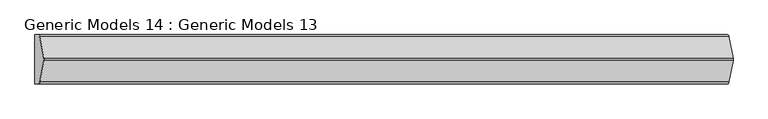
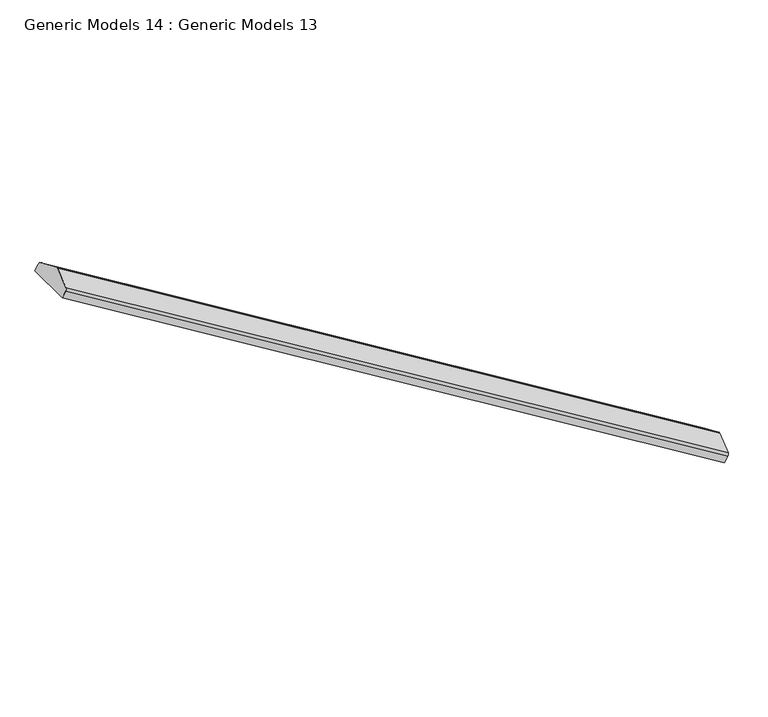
"""IFC4 building model written with IfcOpenShell, lengths in millimetres: proxy geometry, Generic Models 14 : Generic Models 13."""

from ifc_helpers import new_model, si_unit, point, frame, frame_2d, origin, place, context, project, spatial, polyline, circle_curve, trimmed, segment, composite_curve, outline, extrude, source, transform, mapped, element, save


def generic_models_14_generic_models_13_79633aa3(model_context):
    return source(origin(), model_context, "Body", "SweptSolid", [
        extrude(outline(composite_curve([segment(polyline([(-120.0, 0.0), (20.0, 0.0), (20.0, -19.2213026)]), True, "CONTINUOUS"), segment(trimmed(circle_curve(frame_2d((11.8, -19.2213026)), 8.2), [point((20.0, -19.2213026))], [point((14.5579584, -26.9435863))], False, "CARTESIAN"), True, "CONTINUOUS"), segment(polyline([(14.5579584, -26.9435863), (-47.2292405, -49.010443)]), True, "CONTINUOUS"), segment(trimmed(circle_curve(frame_2d((-50.0, -41.2523162)), 8.2380604), [point((-47.2292405, -49.010443))], [point((-52.7707596, -49.010443))], False, "CARTESIAN"), True, "CONTINUOUS"), segment(polyline([(-52.7707596, -49.010443), (-114.5579585, -26.9435863)]), True, "CONTINUOUS"), segment(trimmed(circle_curve(frame_2d((-111.8, -19.2213026)), 8.2), [point((-114.5579585, -26.9435863))], [point((-120.0, -19.2213026))], False, "CARTESIAN"), True, "CONTINUOUS"), segment(polyline([(-120.0, -19.2213026), (-120.0, 0.0)]), True, "CONTINUOUS")], self_intersect=False)), frame((15298.9337784, 13116.4728324, 5200.0), z_axis=(-0.85235186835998, 0.0, 0.5229687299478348), x_axis=(0.0, 1.0, 0.0)), (0.0, 0.0, 1.0), 2294.5922601),
    ])


if __name__ == "__main__":
    model = new_model("IFC4")
    model_context = context("Model", 3, world=origin())
    ifc_project = project(units=[si_unit("LENGTHUNIT", "METRE", prefix="MILLI")], contexts=[model_context])
    site = spatial("IfcSite", under=ifc_project)
    building = spatial("IfcBuilding", under=site)
    placement = place(None, origin())
    generic_models_14_generic_models_13_shape = generic_models_14_generic_models_13_79633aa3(model_context)
    element("IfcBuildingElementProxy", 1, Name="Generic Models 14 : Generic Models 13", ObjectType="Generic Models 14 : Generic Models 13", at=placement, inside=building, context=model_context, shape_type="MappedRepresentation", body=[
        mapped(generic_models_14_generic_models_13_shape, transform((0.0, 0.0, 0.0), x_axis=(1.0, 0.0, 0.0), y_axis=(0.0, 1.0, 0.0), z_axis=(0.0, 0.0, 1.0))),
    ])
    save(model, "model.ifc")
